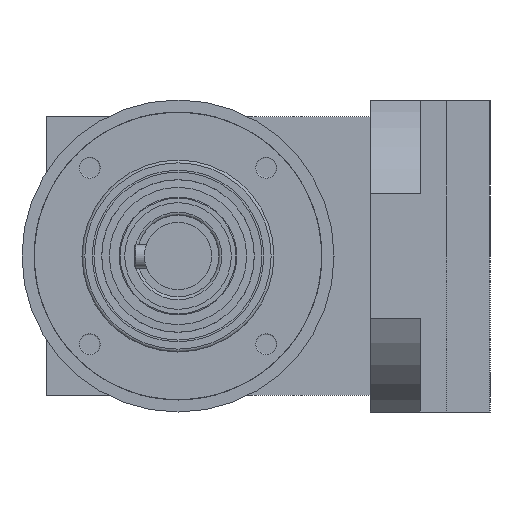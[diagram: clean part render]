
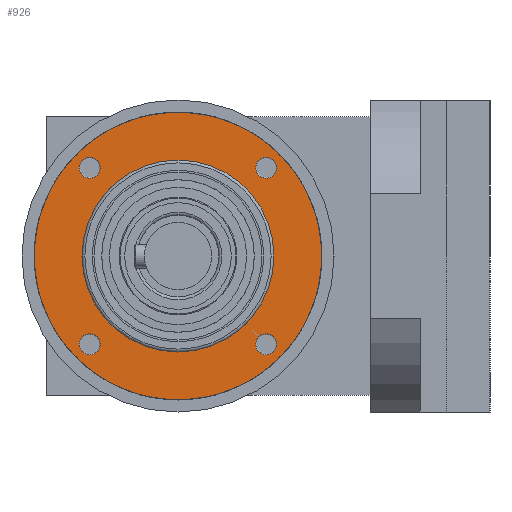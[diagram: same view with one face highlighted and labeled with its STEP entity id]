
A CAD part, left-side view. The second image highlights one B-rep face of the part: STEP entity #926.
In plain terms, the highlighted planar face has unit normal (-1, 0, 0).
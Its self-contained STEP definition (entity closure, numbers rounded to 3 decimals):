
#679=FACE_BOUND('',#1351,.T.);
#680=FACE_BOUND('',#1352,.T.);
#681=FACE_BOUND('',#1353,.T.);
#682=FACE_BOUND('',#1354,.T.);
#683=FACE_BOUND('',#1355,.T.);
#926=ADVANCED_FACE('',(#679,#680,#681,#682,#683),#1118,.T.);
#1118=PLANE('',#3345);
#1351=EDGE_LOOP('',(#1763));
#1352=EDGE_LOOP('',(#1764));
#1353=EDGE_LOOP('',(#1765));
#1354=EDGE_LOOP('',(#1766));
#1355=EDGE_LOOP('',(#1767));
#1763=ORIENTED_EDGE('',*,*,#2759,.T.);
#1764=ORIENTED_EDGE('',*,*,#2760,.T.);
#1765=ORIENTED_EDGE('',*,*,#2761,.T.);
#1766=ORIENTED_EDGE('',*,*,#2762,.T.);
#1767=ORIENTED_EDGE('',*,*,#2763,.T.);
#2448=VERTEX_POINT('',#4862);
#2449=VERTEX_POINT('',#4864);
#2450=VERTEX_POINT('',#4866);
#2451=VERTEX_POINT('',#4868);
#2452=VERTEX_POINT('',#4870);
#2759=EDGE_CURVE('',#2448,#2448,#3107,.T.);
#2760=EDGE_CURVE('',#2449,#2449,#3108,.T.);
#2761=EDGE_CURVE('',#2450,#2450,#3109,.T.);
#2762=EDGE_CURVE('',#2451,#2451,#3110,.T.);
#2763=EDGE_CURVE('',#2452,#2452,#3111,.T.);
#3107=CIRCLE('',#3340,2.175);
#3108=CIRCLE('',#3341,2.175);
#3109=CIRCLE('',#3342,2.175);
#3110=CIRCLE('',#3343,2.175);
#3111=CIRCLE('',#3344,30.);
#3340=AXIS2_PLACEMENT_3D('',#4861,#3849,#3850);
#3341=AXIS2_PLACEMENT_3D('',#4863,#3851,#3852);
#3342=AXIS2_PLACEMENT_3D('',#4865,#3853,#3854);
#3343=AXIS2_PLACEMENT_3D('',#4867,#3855,#3856);
#3344=AXIS2_PLACEMENT_3D('',#4869,#3857,#3858);
#3345=AXIS2_PLACEMENT_3D('',#4871,#3859,#3860);
#3849=DIRECTION('',(1.,0.,0.));
#3850=DIRECTION('',(0.,-0.707,-0.707));
#3851=DIRECTION('',(1.,0.,0.));
#3852=DIRECTION('',(0.,0.707,-0.707));
#3853=DIRECTION('',(1.,0.,0.));
#3854=DIRECTION('',(0.,0.707,0.707));
#3855=DIRECTION('',(1.,0.,0.));
#3856=DIRECTION('',(0.,-0.707,0.707));
#3857=DIRECTION('',(-1.,0.,0.));
#3858=DIRECTION('',(0.,-0.707,0.707));
#3859=DIRECTION('',(-1.,0.,0.));
#3860=DIRECTION('',(0.,-0.707,0.707));
#4861=CARTESIAN_POINT('',(-74.25,-18.385,18.385));
#4862=CARTESIAN_POINT('',(-74.25,-19.923,16.847));
#4863=CARTESIAN_POINT('',(-74.25,-18.385,-18.385));
#4864=CARTESIAN_POINT('',(-74.25,-16.847,-19.923));
#4865=CARTESIAN_POINT('',(-74.25,18.385,-18.385));
#4866=CARTESIAN_POINT('',(-74.25,19.923,-16.847));
#4867=CARTESIAN_POINT('',(-74.25,18.385,18.385));
#4868=CARTESIAN_POINT('',(-74.25,16.847,19.923));
#4869=CARTESIAN_POINT('',(-74.25,0.,0.));
#4870=CARTESIAN_POINT('',(-74.25,-21.213,21.213));
#4871=CARTESIAN_POINT('',(-74.25,0.,0.));
